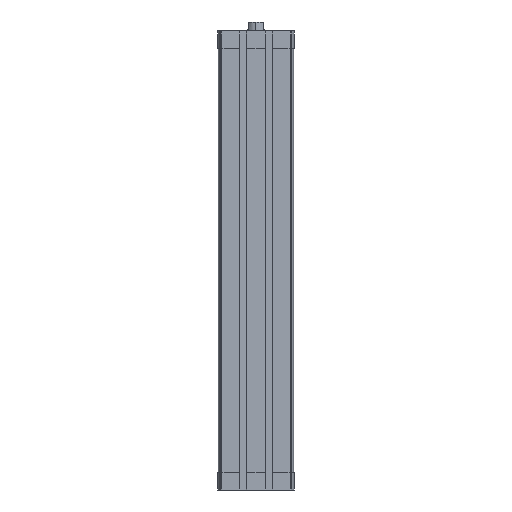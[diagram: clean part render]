
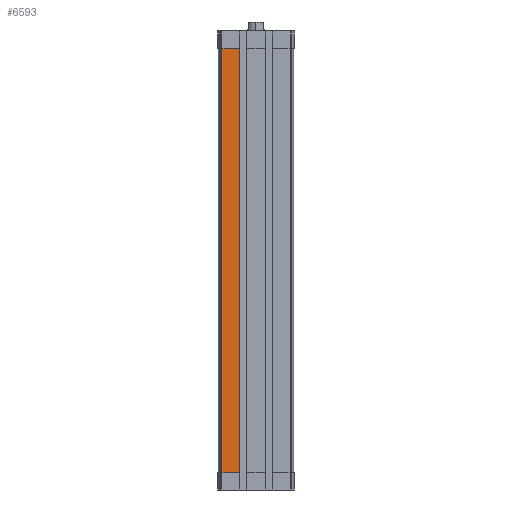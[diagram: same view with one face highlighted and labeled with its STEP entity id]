
A CAD part, left-side view. The second image highlights one B-rep face of the part: STEP entity #6593.
In plain terms, the highlighted planar face has unit normal (-1, 0, 0).
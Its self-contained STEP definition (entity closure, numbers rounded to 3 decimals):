
#70 = CARTESIAN_POINT ( 'NONE',  ( -32.5, 29.291, -380. ) ) ;
#83 = LINE ( 'NONE', #10272, #6338 ) ;
#468 = LINE ( 'NONE', #2748, #9508 ) ;
#865 = VERTEX_POINT ( 'NONE', #8962 ) ;
#1269 = DIRECTION ( 'NONE',  ( -1., 0., 0. ) ) ;
#2092 = CARTESIAN_POINT ( 'NONE',  ( -32.5, 14.2, -380. ) ) ;
#2319 = FACE_OUTER_BOUND ( 'NONE', #12668, .T. ) ;
#2637 = CARTESIAN_POINT ( 'NONE',  ( -32.5, 14.2, -15. ) ) ;
#2748 = CARTESIAN_POINT ( 'NONE',  ( -32.5, 29.291, -380. ) ) ;
#3222 = DIRECTION ( 'NONE',  ( 0., -1., 0. ) ) ;
#3872 = EDGE_CURVE ( 'NONE', #865, #10220, #83, .T. ) ;
#4104 = ORIENTED_EDGE ( 'NONE', *, *, #6781, .T. ) ;
#4682 = VECTOR ( 'NONE', #5242, 1000. ) ;
#4923 = AXIS2_PLACEMENT_3D ( 'NONE', #70, #1269, #9509 ) ;
#5242 = DIRECTION ( 'NONE',  ( 0., 1., 0. ) ) ;
#6313 = VERTEX_POINT ( 'NONE', #8594 ) ;
#6338 = VECTOR ( 'NONE', #3222, 1000. ) ;
#6593 = ADVANCED_FACE ( 'NONE', ( #2319 ), #7138, .T. ) ;
#6781 = EDGE_CURVE ( 'NONE', #6313, #865, #468, .T. ) ;
#7138 = PLANE ( 'NONE',  #4923 ) ;
#7400 = VECTOR ( 'NONE', #10318, 1000. ) ;
#8594 = CARTESIAN_POINT ( 'NONE',  ( -32.5, 29.291, -15. ) ) ;
#8962 = CARTESIAN_POINT ( 'NONE',  ( -32.5, 29.291, -380. ) ) ;
#9164 = EDGE_CURVE ( 'NONE', #10220, #11552, #13286, .T. ) ;
#9508 = VECTOR ( 'NONE', #9791, 1000. ) ;
#9509 = DIRECTION ( 'NONE',  ( 0., 0., 1. ) ) ;
#9791 = DIRECTION ( 'NONE',  ( 0., 0., -1. ) ) ;
#10028 = CARTESIAN_POINT ( 'NONE',  ( -32.5, 14.2, -380. ) ) ;
#10220 = VERTEX_POINT ( 'NONE', #10028 ) ;
#10272 = CARTESIAN_POINT ( 'NONE',  ( -32.5, 29.291, -380. ) ) ;
#10318 = DIRECTION ( 'NONE',  ( 0., 0., 1. ) ) ;
#11096 = CARTESIAN_POINT ( 'NONE',  ( -32.5, 0., -15. ) ) ;
#11320 = LINE ( 'NONE', #11096, #4682 ) ;
#11552 = VERTEX_POINT ( 'NONE', #2637 ) ;
#11598 = ORIENTED_EDGE ( 'NONE', *, *, #3872, .T. ) ;
#12668 = EDGE_LOOP ( 'NONE', ( #11598, #15162, #14245, #4104 ) ) ;
#13286 = LINE ( 'NONE', #2092, #7400 ) ;
#14022 = EDGE_CURVE ( 'NONE', #11552, #6313, #11320, .T. ) ;
#14245 = ORIENTED_EDGE ( 'NONE', *, *, #14022, .T. ) ;
#15162 = ORIENTED_EDGE ( 'NONE', *, *, #9164, .T. ) ;
